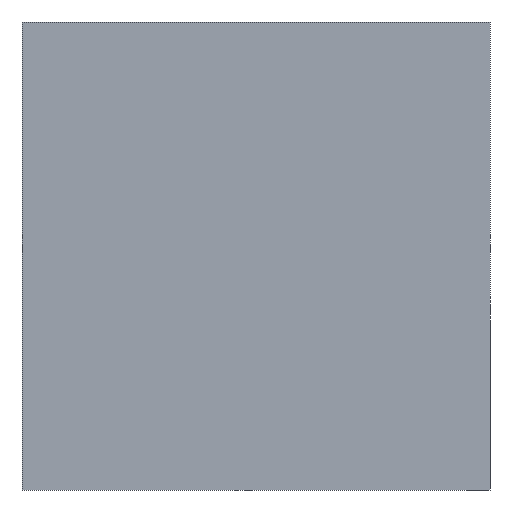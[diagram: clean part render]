
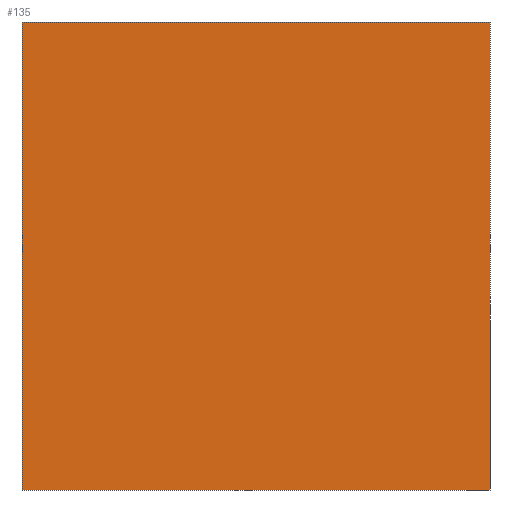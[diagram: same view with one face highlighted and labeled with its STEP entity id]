
A CAD part, front view. The second image highlights one B-rep face of the part: STEP entity #135.
In plain terms, the highlighted planar face has unit normal (0, -1, 0).
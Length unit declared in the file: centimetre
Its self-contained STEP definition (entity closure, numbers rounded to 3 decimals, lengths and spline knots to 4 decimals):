
#24 = CARTESIAN_POINT ( 'NONE',  ( 0., 0., 1000. ) ) ;
#33 = CARTESIAN_POINT ( 'NONE',  ( 0., 0., 0. ) ) ;
#38 = CARTESIAN_POINT ( 'NONE',  ( 1000., 0., 1000. ) ) ;
#72 = ORIENTED_EDGE ( 'NONE', *, *, #331, .T. ) ;
#75 = VERTEX_POINT ( 'NONE', #321 ) ;
#129 = LINE ( 'NONE', #388, #201 ) ;
#135 = ADVANCED_FACE ( 'NONE', ( #424 ), #389, .F. ) ;
#146 = VERTEX_POINT ( 'NONE', #164 ) ;
#147 = DIRECTION ( 'NONE',  ( 1., 0., 0. ) ) ;
#154 = VERTEX_POINT ( 'NONE', #434 ) ;
#155 = CARTESIAN_POINT ( 'NONE',  ( 0., 0., 1000. ) ) ;
#164 = CARTESIAN_POINT ( 'NONE',  ( 1000., 0., 0. ) ) ;
#188 = CARTESIAN_POINT ( 'NONE',  ( 1000., 0., 1000. ) ) ;
#201 = VECTOR ( 'NONE', #289, 100. ) ;
#203 = DIRECTION ( 'NONE',  ( 0., 1., 0. ) ) ;
#215 = VERTEX_POINT ( 'NONE', #188 ) ;
#232 = ORIENTED_EDGE ( 'NONE', *, *, #363, .T. ) ;
#235 = ORIENTED_EDGE ( 'NONE', *, *, #301, .F. ) ;
#248 = VECTOR ( 'NONE', #342, 100. ) ;
#255 = LINE ( 'NONE', #155, #248 ) ;
#264 = DIRECTION ( 'NONE',  ( 0., 0., -1. ) ) ;
#268 = EDGE_LOOP ( 'NONE', ( #72, #295, #235, #232 ) ) ;
#279 = EDGE_CURVE ( 'NONE', #215, #146, #411, .T. ) ;
#289 = DIRECTION ( 'NONE',  ( 0., 0., -1. ) ) ;
#295 = ORIENTED_EDGE ( 'NONE', *, *, #279, .F. ) ;
#297 = AXIS2_PLACEMENT_3D ( 'NONE', #24, #203, #298 ) ;
#298 = DIRECTION ( 'NONE',  ( 0., 0., 1. ) ) ;
#301 = EDGE_CURVE ( 'NONE', #154, #215, #255, .T. ) ;
#321 = CARTESIAN_POINT ( 'NONE',  ( 0., 0., 0. ) ) ;
#326 = VECTOR ( 'NONE', #147, 100. ) ;
#331 = EDGE_CURVE ( 'NONE', #75, #146, #370, .T. ) ;
#342 = DIRECTION ( 'NONE',  ( 1., 0., 0. ) ) ;
#363 = EDGE_CURVE ( 'NONE', #154, #75, #129, .T. ) ;
#370 = LINE ( 'NONE', #33, #326 ) ;
#388 = CARTESIAN_POINT ( 'NONE',  ( 0., 0., 1000. ) ) ;
#389 = PLANE ( 'NONE',  #297 ) ;
#411 = LINE ( 'NONE', #38, #456 ) ;
#424 = FACE_OUTER_BOUND ( 'NONE', #268, .T. ) ;
#434 = CARTESIAN_POINT ( 'NONE',  ( 0., 0., 1000. ) ) ;
#456 = VECTOR ( 'NONE', #264, 100. ) ;
